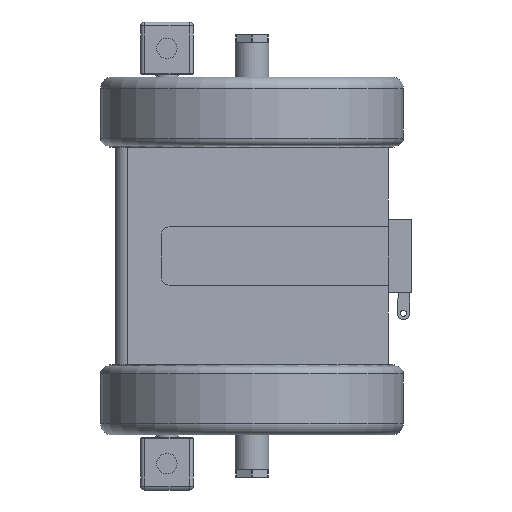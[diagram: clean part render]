
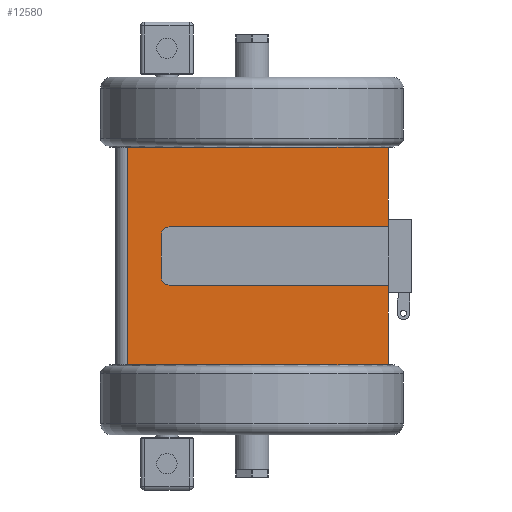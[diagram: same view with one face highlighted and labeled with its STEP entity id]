
A CAD part, left-side view. The second image highlights one B-rep face of the part: STEP entity #12580.
In plain terms, the highlighted planar face has unit normal (-1, 0, 0).
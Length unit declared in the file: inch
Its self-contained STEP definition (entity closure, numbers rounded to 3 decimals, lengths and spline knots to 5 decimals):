
#70 = CARTESIAN_POINT ( 'NONE',  ( -4.41, -1.34998, -3.51095 ) ) ;
#185 = CARTESIAN_POINT ( 'NONE',  ( -4.41, -4.41, -3.51095 ) ) ;
#207 = CARTESIAN_POINT ( 'NONE',  ( -4.41, -4.41, 1.19 ) ) ;
#250 = CARTESIAN_POINT ( 'NONE',  ( -4.41, -4.41, -1.19 ) ) ;
#402 = CARTESIAN_POINT ( 'NONE',  ( -4.41, -1.34998, 3.51095 ) ) ;
#4251 = FACE_OUTER_BOUND ( 'NONE', #8775, .T. ) ;
#6485 = CARTESIAN_POINT ( 'NONE',  ( -4.41, 2.933, -0.691 ) ) ;
#6492 = CARTESIAN_POINT ( 'NONE',  ( -4.41, -4.41, -3.51095 ) ) ;
#6530 = CARTESIAN_POINT ( 'NONE',  ( -4.41, -4.41, 3.51095 ) ) ;
#6535 = DIRECTION ( 'NONE',  ( 0., -1., 0. ) ) ;
#6536 = CARTESIAN_POINT ( 'NONE',  ( -4.41, -4.41, -3.51095 ) ) ;
#6546 = DIRECTION ( 'NONE',  ( 0., 1., 0. ) ) ;
#6548 = DIRECTION ( 'NONE',  ( 0., 1., 0. ) ) ;
#6553 = CARTESIAN_POINT ( 'NONE',  ( -4.41, 2.683, 0.941 ) ) ;
#6561 = CARTESIAN_POINT ( 'NONE',  ( -4.41, 2.683, -0.691 ) ) ;
#6563 = DIRECTION ( 'NONE',  ( 0., 1., 0. ) ) ;
#6604 = DIRECTION ( 'NONE',  ( 1., 0., 0. ) ) ;
#6605 = CARTESIAN_POINT ( 'NONE',  ( -4.41, 2.683, 0.691 ) ) ;
#6606 = DIRECTION ( 'NONE',  ( 0., 1., 0. ) ) ;
#6607 = CARTESIAN_POINT ( 'NONE',  ( -4.41, -4.41, 1.19 ) ) ;
#6608 = DIRECTION ( 'NONE',  ( 0., 0., -1. ) ) ;
#6677 = DIRECTION ( 'NONE',  ( 0., 1., 0. ) ) ;
#6680 = CARTESIAN_POINT ( 'NONE',  ( -4.41, -4.41, 3.51095 ) ) ;
#6681 = DIRECTION ( 'NONE',  ( 0., 1., 0. ) ) ;
#6779 = DIRECTION ( 'NONE',  ( 1., 0., 0. ) ) ;
#6782 = DIRECTION ( 'NONE',  ( 0., 0., -1. ) ) ;
#6797 = DIRECTION ( 'NONE',  ( 0., 0., 1. ) ) ;
#6799 = DIRECTION ( 'NONE',  ( 0., 1., 0. ) ) ;
#6800 = CARTESIAN_POINT ( 'NONE',  ( -4.41, -4.41, -0.941 ) ) ;
#6801 = DIRECTION ( 'NONE',  ( 0., 1., 0. ) ) ;
#6806 = CARTESIAN_POINT ( 'NONE',  ( -4.41, 4.035, -3.51095 ) ) ;
#6807 = CARTESIAN_POINT ( 'NONE',  ( -4.41, -4.41, 3.48595 ) ) ;
#6808 = CARTESIAN_POINT ( 'NONE',  ( -4.41, -4.41, -3.51095 ) ) ;
#6809 = DIRECTION ( 'NONE',  ( 0., 0., -1. ) ) ;
#6810 = DIRECTION ( 'NONE',  ( 0., 1., 0. ) ) ;
#6813 = CARTESIAN_POINT ( 'NONE',  ( -4.41, -4.41, 3.51095 ) ) ;
#8775 = EDGE_LOOP ( 'NONE', ( #36285, #36342, #36654, #8905, #36542, #36454, #36221, #36378, #36633, #36294, #36330, #36498, #36628, #36437, #36434, #36428 ) ) ;
#8905 = ORIENTED_EDGE ( 'NONE', *, *, #9525, .F. ) ;
#9522 = EDGE_CURVE ( 'NONE', #12745, #12857, #25863, .T. ) ;
#9523 = EDGE_CURVE ( 'NONE', #12857, #12846, #25847, .T. ) ;
#9524 = EDGE_CURVE ( 'NONE', #13005, #12846, #25871, .T. ) ;
#9525 = EDGE_CURVE ( 'NONE', #27571, #13005, #25867, .T. ) ;
#9526 = EDGE_CURVE ( 'NONE', #27766, #27571, #25875, .T. ) ;
#9527 = EDGE_CURVE ( 'NONE', #13016, #27880, #25879, .T. ) ;
#9528 = EDGE_CURVE ( 'NONE', #13016, #13108, #25883, .T. ) ;
#9529 = EDGE_CURVE ( 'NONE', #13108, #13098, #25890, .T. ) ;
#9530 = EDGE_CURVE ( 'NONE', #13098, #12704, #25895, .T. ) ;
#9531 = EDGE_CURVE ( 'NONE', #12704, #13099, #25897, .T. ) ;
#9532 = EDGE_CURVE ( 'NONE', #13099, #13084, #25900, .T. ) ;
#9533 = EDGE_CURVE ( 'NONE', #27809, #13084, #25902, .T. ) ;
#9534 = EDGE_CURVE ( 'NONE', #13109, #28053, #25907, .T. ) ;
#9535 = EDGE_CURVE ( 'NONE', #28053, #12745, #25911, .T. ) ;
#12580 = ADVANCED_FACE ( 'NONE', ( #4251 ), #37143, .F. ) ;
#12704 = VERTEX_POINT ( 'NONE', #37168 ) ;
#12745 = VERTEX_POINT ( 'NONE', #25791 ) ;
#12846 = VERTEX_POINT ( 'NONE', #26350 ) ;
#12857 = VERTEX_POINT ( 'NONE', #26387 ) ;
#13005 = VERTEX_POINT ( 'NONE', #22378 ) ;
#13016 = VERTEX_POINT ( 'NONE', #22395 ) ;
#13084 = VERTEX_POINT ( 'NONE', #22463 ) ;
#13098 = VERTEX_POINT ( 'NONE', #22477 ) ;
#13099 = VERTEX_POINT ( 'NONE', #22478 ) ;
#13108 = VERTEX_POINT ( 'NONE', #22487 ) ;
#13109 = VERTEX_POINT ( 'NONE', #22488 ) ;
#15325 = AXIS2_PLACEMENT_3D ( 'NONE', #37145, #37141, #37142 ) ;
#19091 = EDGE_CURVE ( 'NONE', #13109, #27809, #32506, .T. ) ;
#19125 = EDGE_CURVE ( 'NONE', #27880, #27766, #32552, .T. ) ;
#22378 = CARTESIAN_POINT ( 'NONE',  ( -4.41, 1.34998, -3.51095 ) ) ;
#22395 = CARTESIAN_POINT ( 'NONE',  ( -4.41, -4.41, -0.941 ) ) ;
#22463 = CARTESIAN_POINT ( 'NONE',  ( -4.41, -4.41, 0.941 ) ) ;
#22477 = CARTESIAN_POINT ( 'NONE',  ( -4.41, 2.933, -0.691 ) ) ;
#22478 = CARTESIAN_POINT ( 'NONE',  ( -4.41, 2.683, 0.941 ) ) ;
#22487 = CARTESIAN_POINT ( 'NONE',  ( -4.41, 2.683, -0.941 ) ) ;
#22488 = CARTESIAN_POINT ( 'NONE',  ( -4.41, -4.41, 3.51095 ) ) ;
#25791 = CARTESIAN_POINT ( 'NONE',  ( -4.41, 1.34998, 3.51095 ) ) ;
#25847 = LINE ( 'NONE', #6806, #25873 ) ;
#25863 = LINE ( 'NONE', #6530, #25869 ) ;
#25867 = LINE ( 'NONE', #6536, #25880 ) ;
#25869 = VECTOR ( 'NONE', #6810, 39.37008 ) ;
#25871 = LINE ( 'NONE', #6808, #25877 ) ;
#25873 = VECTOR ( 'NONE', #6809, 39.37008 ) ;
#25875 = LINE ( 'NONE', #6492, #25885 ) ;
#25877 = VECTOR ( 'NONE', #6563, 39.37008 ) ;
#25879 = LINE ( 'NONE', #6807, #25888 ) ;
#25880 = VECTOR ( 'NONE', #6801, 39.37008 ) ;
#25883 = LINE ( 'NONE', #6800, #25892 ) ;
#25885 = VECTOR ( 'NONE', #6799, 39.37008 ) ;
#25888 = VECTOR ( 'NONE', #6782, 39.37008 ) ;
#25890 = CIRCLE ( 'NONE', #40666, 0.25 ) ;
#25892 = VECTOR ( 'NONE', #6548, 39.37008 ) ;
#25895 = LINE ( 'NONE', #6485, #25898 ) ;
#25897 = CIRCLE ( 'NONE', #40667, 0.25 ) ;
#25898 = VECTOR ( 'NONE', #6797, 39.37008 ) ;
#25900 = LINE ( 'NONE', #6553, #25904 ) ;
#25902 = LINE ( 'NONE', #6607, #25909 ) ;
#25904 = VECTOR ( 'NONE', #6535, 39.37008 ) ;
#25907 = LINE ( 'NONE', #6813, #25913 ) ;
#25909 = VECTOR ( 'NONE', #6608, 39.37008 ) ;
#25911 = LINE ( 'NONE', #6680, #25917 ) ;
#25913 = VECTOR ( 'NONE', #6681, 39.37008 ) ;
#25917 = VECTOR ( 'NONE', #6677, 39.37008 ) ;
#26350 = CARTESIAN_POINT ( 'NONE',  ( -4.41, 4.035, -3.51095 ) ) ;
#26387 = CARTESIAN_POINT ( 'NONE',  ( -4.41, 4.035, 3.51095 ) ) ;
#27571 = VERTEX_POINT ( 'NONE', #70 ) ;
#27766 = VERTEX_POINT ( 'NONE', #185 ) ;
#27809 = VERTEX_POINT ( 'NONE', #207 ) ;
#27880 = VERTEX_POINT ( 'NONE', #250 ) ;
#28053 = VERTEX_POINT ( 'NONE', #402 ) ;
#32503 = VECTOR ( 'NONE', #39980, 39.37008 ) ;
#32506 = LINE ( 'NONE', #39962, #32503 ) ;
#32552 = LINE ( 'NONE', #40018, #32561 ) ;
#32561 = VECTOR ( 'NONE', #40027, 39.37008 ) ;
#36221 = ORIENTED_EDGE ( 'NONE', *, *, #9527, .F. ) ;
#36285 = ORIENTED_EDGE ( 'NONE', *, *, #9522, .T. ) ;
#36294 = ORIENTED_EDGE ( 'NONE', *, *, #9530, .T. ) ;
#36330 = ORIENTED_EDGE ( 'NONE', *, *, #9531, .T. ) ;
#36342 = ORIENTED_EDGE ( 'NONE', *, *, #9523, .T. ) ;
#36378 = ORIENTED_EDGE ( 'NONE', *, *, #9528, .T. ) ;
#36428 = ORIENTED_EDGE ( 'NONE', *, *, #9535, .T. ) ;
#36434 = ORIENTED_EDGE ( 'NONE', *, *, #9534, .T. ) ;
#36437 = ORIENTED_EDGE ( 'NONE', *, *, #19091, .F. ) ;
#36454 = ORIENTED_EDGE ( 'NONE', *, *, #19125, .F. ) ;
#36498 = ORIENTED_EDGE ( 'NONE', *, *, #9532, .T. ) ;
#36542 = ORIENTED_EDGE ( 'NONE', *, *, #9526, .F. ) ;
#36628 = ORIENTED_EDGE ( 'NONE', *, *, #9533, .F. ) ;
#36633 = ORIENTED_EDGE ( 'NONE', *, *, #9529, .T. ) ;
#36654 = ORIENTED_EDGE ( 'NONE', *, *, #9524, .F. ) ;
#37141 = DIRECTION ( 'NONE',  ( 1., 0., 0. ) ) ;
#37142 = DIRECTION ( 'NONE',  ( 0., 1., 0. ) ) ;
#37143 = PLANE ( 'NONE',  #15325 ) ;
#37145 = CARTESIAN_POINT ( 'NONE',  ( -4.41, 4.41, 3.48595 ) ) ;
#37168 = CARTESIAN_POINT ( 'NONE',  ( -4.41, 2.933, 0.691 ) ) ;
#39962 = CARTESIAN_POINT ( 'NONE',  ( -4.41, -4.41, 3.48595 ) ) ;
#39980 = DIRECTION ( 'NONE',  ( 0., 0., -1. ) ) ;
#40018 = CARTESIAN_POINT ( 'NONE',  ( -4.41, -4.41, 3.48595 ) ) ;
#40027 = DIRECTION ( 'NONE',  ( 0., 0., -1. ) ) ;
#40666 = AXIS2_PLACEMENT_3D ( 'NONE', #6561, #6779, #6546 ) ;
#40667 = AXIS2_PLACEMENT_3D ( 'NONE', #6605, #6604, #6606 ) ;
